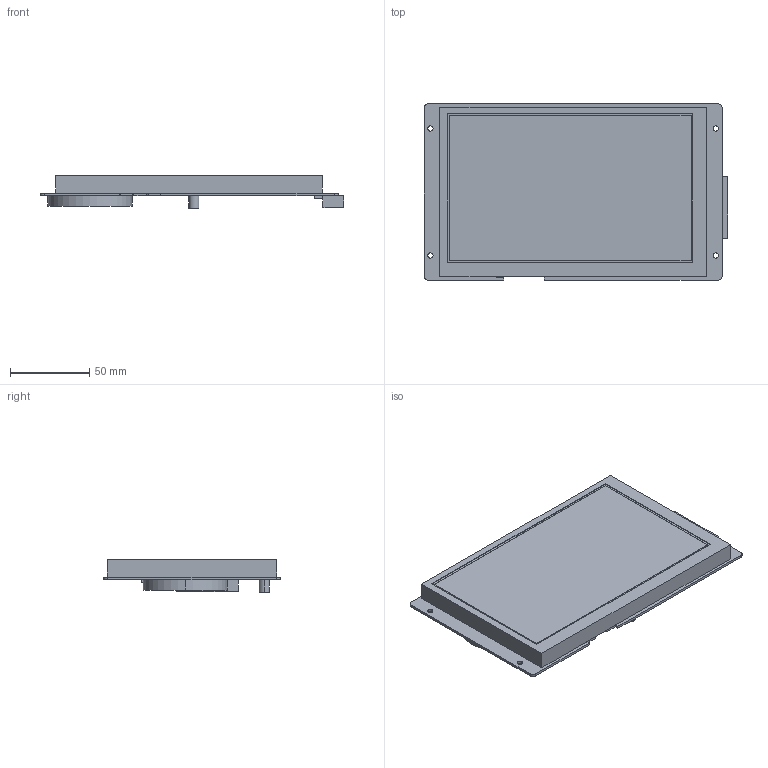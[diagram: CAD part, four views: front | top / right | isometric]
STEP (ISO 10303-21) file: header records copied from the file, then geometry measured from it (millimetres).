
FILE_DESCRIPTION((''),'2;1');
FILE_NAME('DMG80480S070_05WN','2025-07-21T',('Administrator'),(''),'PRO/ENGINEER BY PARAMETRIC TECHNOLOGY CORPORATION, 2014320','PRO/ENGINEER BY PARAMETRIC TECHNOLOGY CORPORATION, 2014320','');
FILE_SCHEMA(('AUTOMOTIVE_DESIGN_CC2 { 1 2 10303 214 -1 1 5 2 }'));
Length unit declared in the file: millimetre
Products named in the file (1): DMG80480S070_05WN
Bounding box: 191.43 x 111 x 20.6 mm (x, y, z)
Volume: 242278.2 mm3; surface area: 51423.5 mm2
Topology: 1 solids, 1 shells, 73 faces, 188 edges, 124 vertices
Faces by surface type: plane 49, cylinder 24
Entity records: 2294 total; most frequent: CARTESIAN_POINT 385, DIRECTION 382, ORIENTED_EDGE 376, EDGE_CURVE 188, VECTOR 140, LINE 140, VERTEX_POINT 124, AXIS2_PLACEMENT_3D 121
